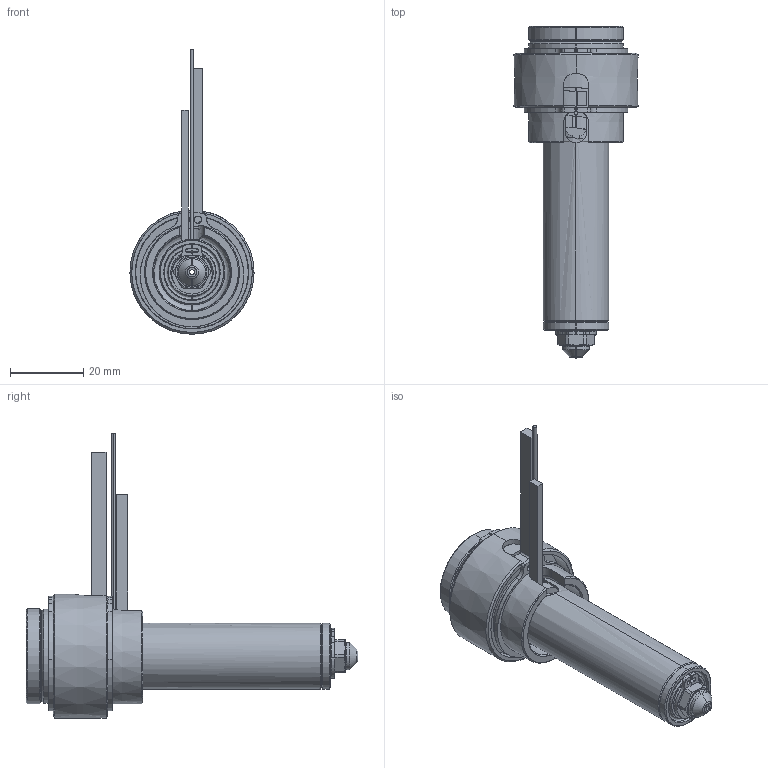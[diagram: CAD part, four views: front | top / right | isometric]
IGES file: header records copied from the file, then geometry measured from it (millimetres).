
Start section: SolidWorks IGES file using analytic representation for surfaces
Global section: file name: C:\Documents and Settings\ws-20\Desktop\TEM\UGER2502-S-A-1 [Øb-1.30 ØC-4.0].IGS; native system: SolidWorks 2012; preprocessor: SolidWorks 2012; author: ws-20; date: 120405.101831; units: millimetre
Bounding box: 34 x 90.9 x 77.9 mm (x, y, z)
Surface area: 24231.2 mm2 (no closed solid volume)
Topology: 0 solids, 0 shells, 204 faces, 2693 edges, 2693 vertices
Faces by surface type: revolution 130, bspline 74
